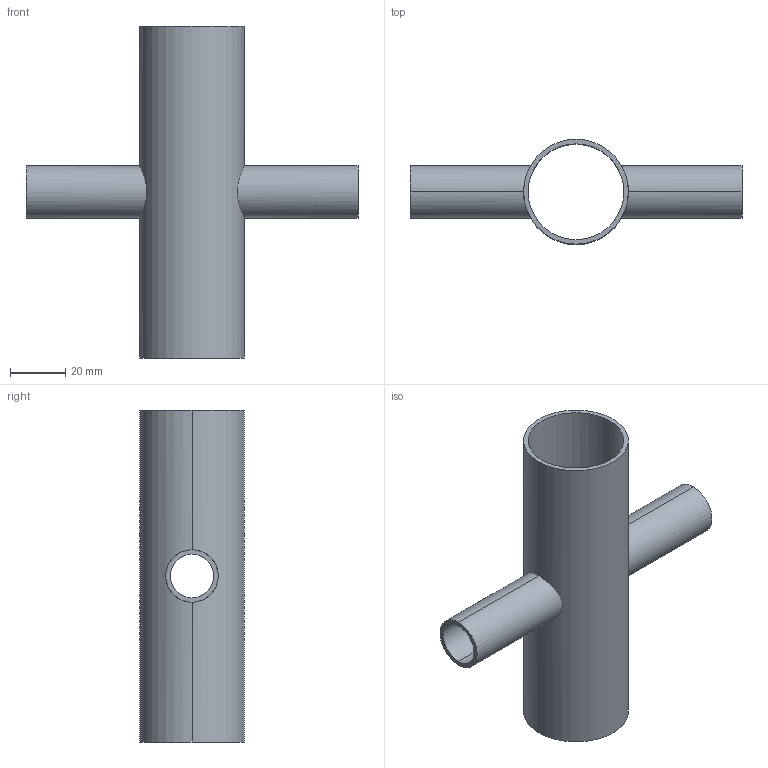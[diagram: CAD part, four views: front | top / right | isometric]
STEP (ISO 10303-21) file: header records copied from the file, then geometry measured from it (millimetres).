
FILE_DESCRIPTION (( 'STEP AP214' ), '1' );
FILE_NAME ('TE9RWWWW6L1.5x.75-...STEP', '2016-05-22T04:13:31', ( 'eran' ), ( '' ), 'SwSTEP 2.0', 'SolidWorks 2016', '' );
FILE_SCHEMA (( 'AUTOMOTIVE_DESIGN' ));
Length unit declared in the file: millimetre
Products named in the file (1): TE9RWWWW6L1.5x.75-..
Bounding box: 120.65 x 38.1 x 120.65 mm (x, y, z)
Volume: 29788.3 mm3; surface area: 36628.9 mm2
Topology: 1 solids, 1 shells, 16 faces, 40 edges, 24 vertices
Faces by surface type: cylinder 12, plane 4
Entity records: 890 total; most frequent: CARTESIAN_POINT 465, DIRECTION 82, ORIENTED_EDGE 80, EDGE_CURVE 40, AXIS2_PLACEMENT_3D 33, VERTEX_POINT 24, EDGE_LOOP 20, FACE_OUTER_BOUND 16
